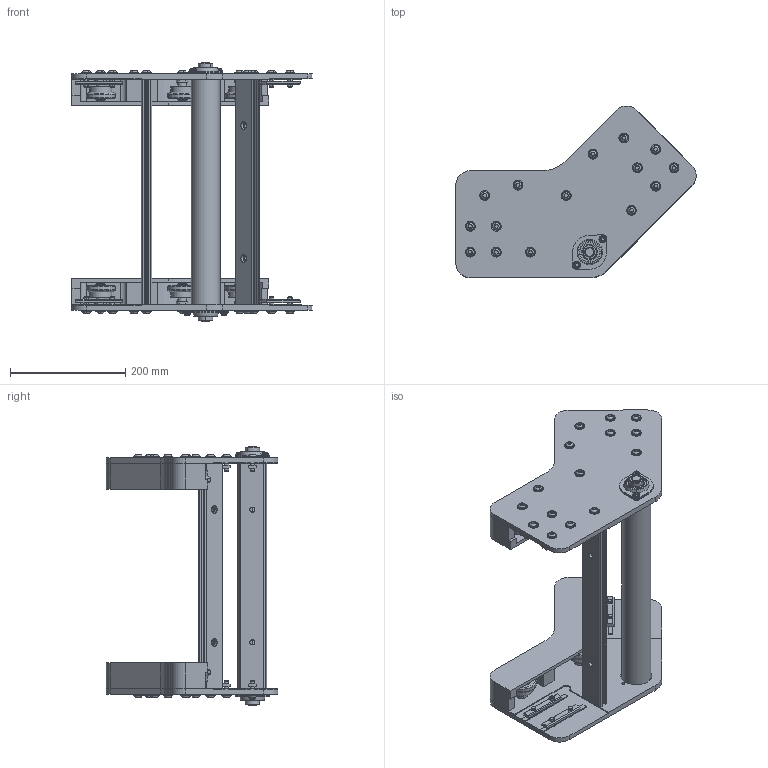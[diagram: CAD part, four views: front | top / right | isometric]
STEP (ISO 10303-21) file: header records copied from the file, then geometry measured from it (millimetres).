
FILE_DESCRIPTION (( 'STEP AP203' ), '1' );
FILE_NAME ('084.095.KA.STEP', '2018-03-12T15:27:57', ( '' ), ( '' ), 'SwSTEP 2.0', 'SolidWorks 2016', '' );
FILE_SCHEMA (( 'CONFIG_CONTROL_DESIGN' ));
Length unit declared in the file: millimetre
Products named in the file (17): 084.821.102; 084.821.BBB; 084.095.KA; SBPFL 203; 084.302.016; VITI TESTA BOMBATA ISO 730 INOX_M6x10 ISO 7380 INOX; VITI TESTA BOMBATA ISO 730 INOX_M8x25 ISO 7380 INOX; 084.821.DDD_Default<A macchina>; 084.821.CCC_Default<A macchina>; 084.821.AAA; 084.821.103; CUSCINETTI A SFERE_6002-2Z; 084.811.004; RONDELLE UNI 6592_8.4x17 UNI 6592; 084.821.105; RONDELLE UNI 6592_6.4x12.5 UNI 6592; circlip for shafts normal_din_Circlip DIN 471 - 15 x 1
Assembly tree (129 placements, depth 2):
  084.095.KA
    084.821.CCC_Default<A macchina>
    084.821.DDD_Default<A macchina>  x2
    084.821.AAA  x2
    084.821.BBB  x2
    084.821.103  x6
    084.821.105  x6
    084.821.102  x6
    084.302.016  x8
    084.811.004  x2
    CUSCINETTI A SFERE_6002-2Z  x12
    SBPFL 203  x2
    circlip for shafts normal_din_Circlip DIN 471 - 15 x 1  x12
    VITI TESTA BOMBATA ISO 730 INOX_M8x25 ISO 7380 INOX  x30
    RONDELLE UNI 6592_8.4x17 UNI 6592  x30
    VITI TESTA BOMBATA ISO 730 INOX_M6x10 ISO 7380 INOX  x4
    RONDELLE UNI 6592_6.4x12.5 UNI 6592  x4
Bounding box: 416.33 x 297.14 x 448 mm (x, y, z)
Volume: 3231608.8 mm3; surface area: 1111314.9 mm2
Topology: 133 solids, 133 shells, 2447 faces, 5767 edges, 3732 vertices
Faces by surface type: plane 1038, cylinder 993, cone 200, torus 196, sphere 20
Entity records: 22048 total; most frequent: DIRECTION 3237, CARTESIAN_POINT 3189, ORIENTED_EDGE 2726, EDGE_CURVE 1363, AXIS2_PLACEMENT_3D 1238, VERTEX_POINT 894, VECTOR 761, LINE 761
